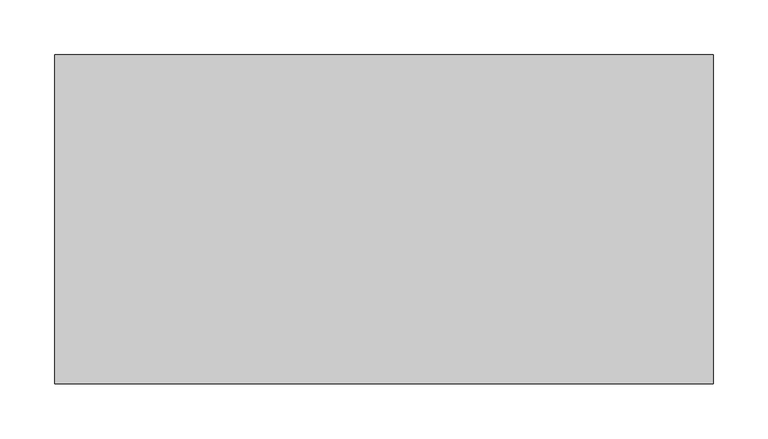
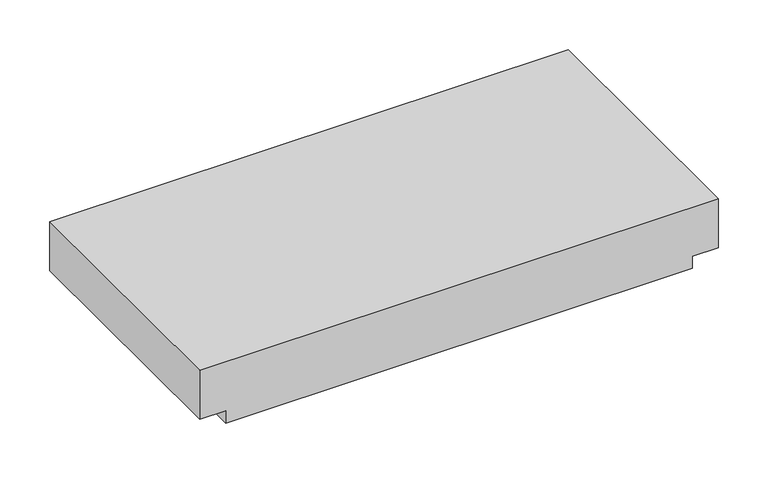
"""IFC4 building model written with IfcOpenShell, lengths in millimetres: proxy geometry, Módulo Laje de Concreto Celular com Friso - Celucon : MLCC friso 07,5x30x60cm (A x B x C)."""

from ifc_helpers import new_model, si_unit, frame, origin, place, context, project, spatial, polyline, outline, extrude, source, transform, mapped, element, save


def generic_models_5cd3b0e0(model_context):
    return source(origin(), model_context, "Body", "SweptSolid", [
        extrude(outline(polyline([(75.0, 300.0), (75.0, -300.0), (15.0, -300.0), (15.0, -270.0), (0.0, -270.0), (0.0, 270.0), (15.0, 270.0), (15.0, 300.0), (75.0, 300.0)])), frame((0.0, -150.0, 0.0), z_axis=(0.0, 1.0, 0.0), x_axis=(0.0, 0.0, 1.0)), (0.0, 0.0, 1.0), 300.0),
    ])


if __name__ == "__main__":
    model = new_model("IFC4")
    model_context = context("Model", 3, world=origin())
    ifc_project = project(units=[si_unit("LENGTHUNIT", "METRE", prefix="MILLI")], contexts=[model_context])
    site = spatial("IfcSite", under=ifc_project)
    building = spatial("IfcBuilding", under=site)
    placement = place(None, origin())
    generic_models_shape = generic_models_5cd3b0e0(model_context)
    element("IfcBuildingElementProxy", 1, Name="Módulo Laje de Concreto Celular com Friso - Celucon : MLCC friso 07,5x30x60cm (A x B x C)", ObjectType="Módulo Laje de Concreto Celular com Friso - Celucon : MLCC friso 07,5x30x60cm (A x B x C)", at=placement, inside=building, context=model_context, shape_type="MappedRepresentation", body=[
        mapped(generic_models_shape, transform((0.0, 0.0, 0.0), x_axis=(1.0, 0.0, 0.0), y_axis=(0.0, 1.0, 0.0), z_axis=(0.0, 0.0, 1.0))),
    ])
    save(model, "model.ifc")
